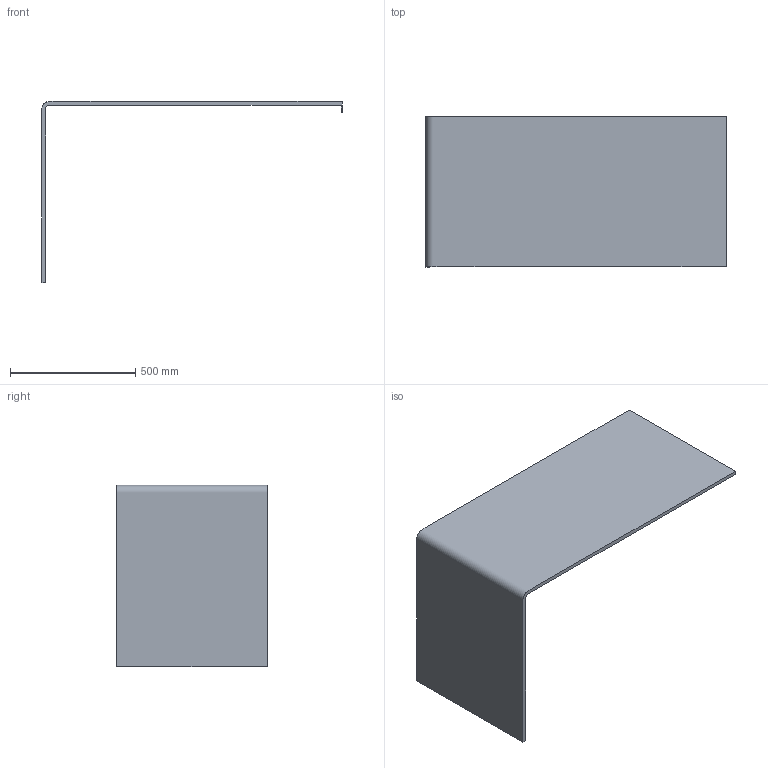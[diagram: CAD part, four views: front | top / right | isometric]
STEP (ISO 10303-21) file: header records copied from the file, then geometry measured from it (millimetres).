
FILE_DESCRIPTION(/* description */ (''),/* implementation_level */ '2;1');
FILE_NAME(/* name */ 'SW1260 - Rialto L parete 120x60',/* time_stamp */ '2012-06-20T17:38:46+02:00',/* author */ (''),/* organization */ (''),/* preprocessor_version */ 'ST-DEVELOPER v10',/* originating_system */ '',/* authorisation */ '');
FILE_SCHEMA (('CONFIG_CONTROL_DESIGN'));
Length unit declared in the file: millimetre
Products named in the file (1): 1
Bounding box: 1200 x 600 x 725 mm (x, y, z)
Volume: 16799708.3 mm3; surface area: 2402826.3 mm2
Topology: 2 solids, 2 shells, 18 faces, 42 edges, 28 vertices
Faces by surface type: plane 12, bspline 6
Entity records: 622 total; most frequent: CARTESIAN_POINT 246, ORIENTED_EDGE 84, EDGE_CURVE 42, B_SPLINE_CURVE_WITH_KNOTS 30, VERTEX_POINT 28, EDGE_LOOP 22, ADVANCED_FACE 18, FACE_OUTER_BOUND 18
